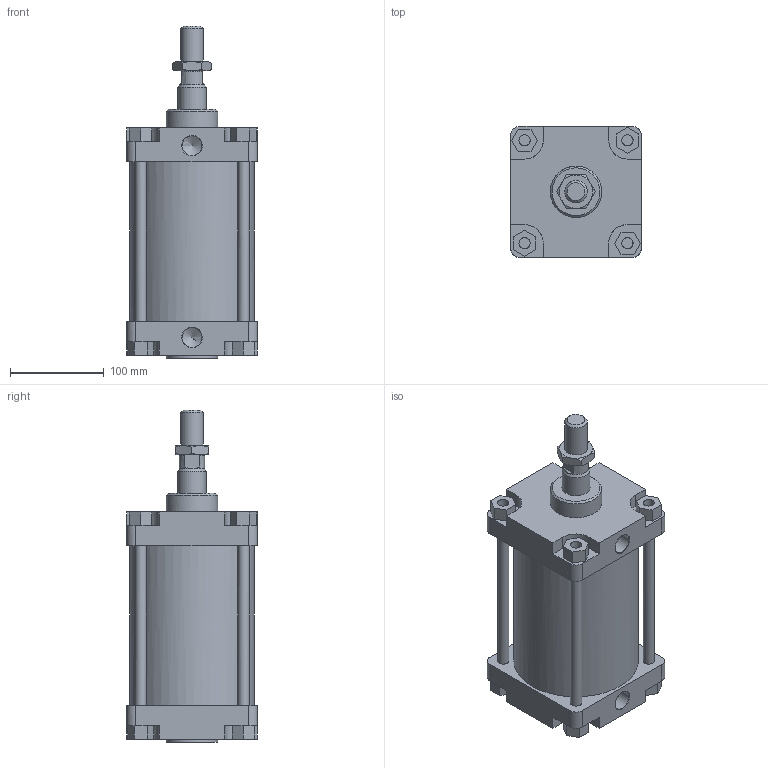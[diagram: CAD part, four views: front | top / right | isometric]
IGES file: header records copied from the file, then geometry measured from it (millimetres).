
Global section: file name: 1304_125_0075_01A; native system: Autodesk Inventor 2014; preprocessor: unknown; author: A. Manieri; date: 20161124.142339; units: millimetre
Bounding box: 140 x 140 x 355 mm (x, y, z)
Volume: 2984107.8 mm3; surface area: 398852.2 mm2
Topology: 9 solids, 9 shells, 175 faces, 440 edges, 295 vertices
Faces by surface type: bspline 175
